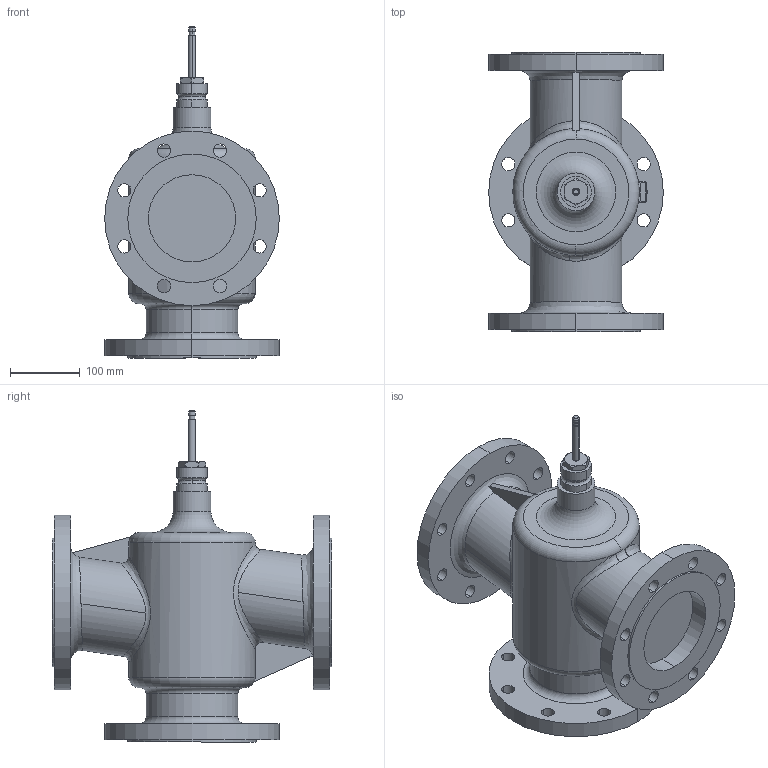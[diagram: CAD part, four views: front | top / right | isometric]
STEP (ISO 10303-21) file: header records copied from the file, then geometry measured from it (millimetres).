
FILE_DESCRIPTION(/* description */ (''),/* implementation_level */ '2;1');
FILE_NAME(/* name */ 'RAS_021826_00.stp',/* time_stamp */ '2012-11-07T08:19:37+01:00',/* author */ (''),/* organization */ (''),/* preprocessor_version */ 'ST-DEVELOPER v11',/* originating_system */ 'SIEMENS UGS NX 6.0',/* authorisation */ '');
FILE_SCHEMA (('AUTOMOTIVE_DESIGN { 1 0 10303 214 1 1 1 1 }'));
Length unit declared in the file: millimetre
Products named in the file (1): RontB30C3t16
Bounding box: 250 x 400 x 475.5 mm (x, y, z)
Volume: 11712419.9 mm3; surface area: 608038 mm2
Topology: 1 solids, 2 shells, 176 faces, 450 edges, 294 vertices
Faces by surface type: cylinder 99, plane 44, torus 15, bspline 10, cone 6, sphere 2
Full cylindrical faces by diameter (mm): 54 x1
Entity records: 8672 total; most frequent: CARTESIAN_POINT 4306, DIRECTION 931, ORIENTED_EDGE 878, EDGE_CURVE 439, AXIS2_PLACEMENT_3D 395, VERTEX_POINT 289, EDGE_LOOP 246, CIRCLE 226
